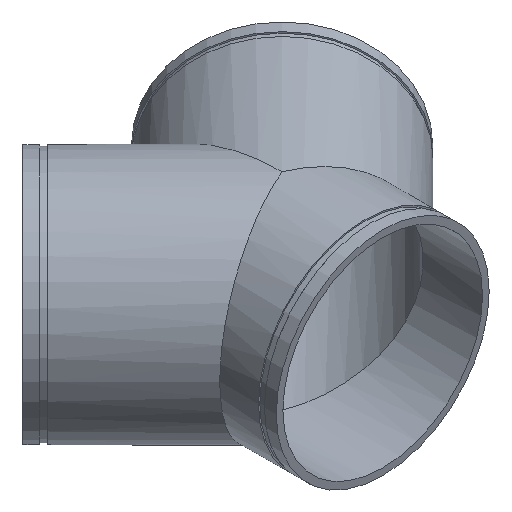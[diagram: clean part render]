
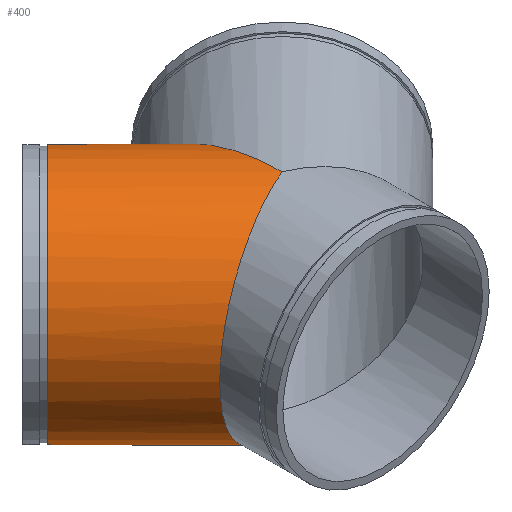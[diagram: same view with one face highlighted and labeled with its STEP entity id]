
A CAD part, isometric view. The second image highlights one B-rep face of the part: STEP entity #400.
In plain terms, the highlighted cylindrical face has radius 228.6 mm (diameter 457.2 mm), a full revolution.
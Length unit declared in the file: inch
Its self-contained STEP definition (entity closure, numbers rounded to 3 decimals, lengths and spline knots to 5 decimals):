
#76=FACE_OUTER_BOUND('',#103,.T.);
#103=EDGE_LOOP('',(#314,#315,#316,#317,#318,#319,#320,#321));
#118=ELLIPSE('',#470,12.72792,9.);
#119=ELLIPSE('',#471,9.74153,9.);
#120=ELLIPSE('',#472,9.74153,9.);
#121=ELLIPSE('',#473,12.72792,9.);
#131=LINE('',#735,#143);
#143=VECTOR('',#595,9.);
#156=CIRCLE('',#446,9.);
#157=CIRCLE('',#447,9.);
#186=VERTEX_POINT('',#686);
#187=VERTEX_POINT('',#687);
#202=VERTEX_POINT('',#730);
#203=VERTEX_POINT('',#731);
#204=VERTEX_POINT('',#733);
#205=VERTEX_POINT('',#736);
#223=EDGE_CURVE('',#186,#187,#156,.T.);
#224=EDGE_CURVE('',#187,#186,#157,.T.);
#243=EDGE_CURVE('',#202,#203,#118,.T.);
#244=EDGE_CURVE('',#204,#202,#119,.T.);
#245=EDGE_CURVE('',#204,#187,#131,.T.);
#246=EDGE_CURVE('',#205,#204,#120,.T.);
#247=EDGE_CURVE('',#203,#205,#121,.T.);
#314=ORIENTED_EDGE('',*,*,#243,.F.);
#315=ORIENTED_EDGE('',*,*,#244,.F.);
#316=ORIENTED_EDGE('',*,*,#245,.T.);
#317=ORIENTED_EDGE('',*,*,#224,.T.);
#318=ORIENTED_EDGE('',*,*,#223,.T.);
#319=ORIENTED_EDGE('',*,*,#245,.F.);
#320=ORIENTED_EDGE('',*,*,#246,.F.);
#321=ORIENTED_EDGE('',*,*,#247,.F.);
#359=CYLINDRICAL_SURFACE('',#469,9.);
#400=ADVANCED_FACE('',(#76),#359,.T.);
#446=AXIS2_PLACEMENT_3D('',#688,#539,#540);
#447=AXIS2_PLACEMENT_3D('',#689,#541,#542);
#469=AXIS2_PLACEMENT_3D('',#729,#589,#590);
#470=AXIS2_PLACEMENT_3D('',#732,#591,#592);
#471=AXIS2_PLACEMENT_3D('',#734,#593,#594);
#472=AXIS2_PLACEMENT_3D('',#737,#596,#597);
#473=AXIS2_PLACEMENT_3D('',#738,#598,#599);
#539=DIRECTION('center_axis',(0.707,-0.707,0.));
#540=DIRECTION('ref_axis',(0.707,0.707,0.));
#541=DIRECTION('center_axis',(0.707,-0.707,0.));
#542=DIRECTION('ref_axis',(0.707,0.707,0.));
#589=DIRECTION('center_axis',(0.707,-0.707,0.));
#590=DIRECTION('ref_axis',(0.707,0.707,0.));
#591=DIRECTION('center_axis',(1.,0.,0.));
#592=DIRECTION('ref_axis',(0.,1.,0.));
#593=DIRECTION('center_axis',(0.383,-0.924,0.));
#594=DIRECTION('ref_axis',(0.924,0.383,0.));
#595=DIRECTION('',(-0.707,0.707,0.));
#596=DIRECTION('center_axis',(0.383,-0.924,0.));
#597=DIRECTION('ref_axis',(0.924,0.383,0.));
#598=DIRECTION('center_axis',(1.,0.,0.));
#599=DIRECTION('ref_axis',(0.,1.,0.));
#686=CARTESIAN_POINT('',(-3.53553,16.26346,0.));
#687=CARTESIAN_POINT('',(-16.26346,3.53553,0.));
#688=CARTESIAN_POINT('Origin',(-9.89949,9.89949,0.));
#689=CARTESIAN_POINT('Origin',(-9.89949,9.89949,0.));
#729=CARTESIAN_POINT('Origin',(-10.96016,10.96016,0.));
#730=CARTESIAN_POINT('',(0.,0.,-9.));
#731=CARTESIAN_POINT('',(0.,12.72792,0.));
#732=CARTESIAN_POINT('Origin',(0.,0.,0.));
#733=CARTESIAN_POINT('',(-9.,-3.72792,0.));
#734=CARTESIAN_POINT('Origin',(0.,0.,0.));
#735=CARTESIAN_POINT('',(-17.32412,4.59619,0.));
#736=CARTESIAN_POINT('',(0.,0.,9.));
#737=CARTESIAN_POINT('Origin',(0.,0.,0.));
#738=CARTESIAN_POINT('Origin',(0.,0.,0.));
